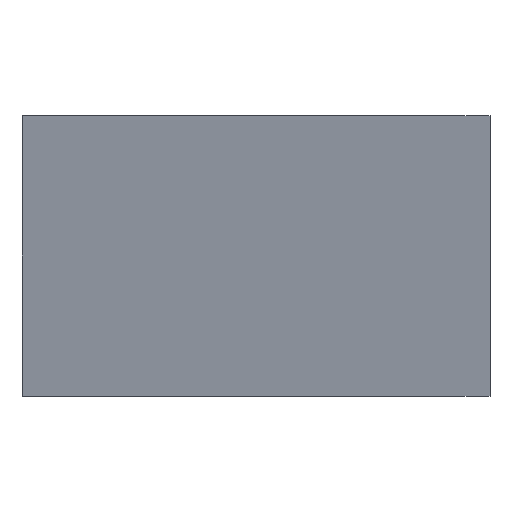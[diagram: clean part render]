
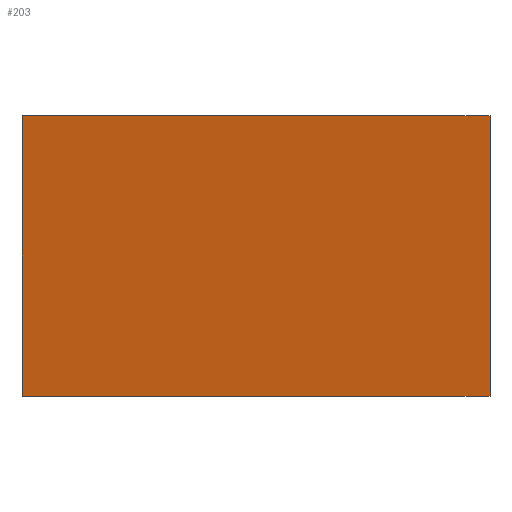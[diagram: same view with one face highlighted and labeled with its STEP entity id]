
A CAD part, front view. The second image highlights one B-rep face of the part: STEP entity #203.
In plain terms, the highlighted planar face has unit normal (-0.259, -0.966, 0).
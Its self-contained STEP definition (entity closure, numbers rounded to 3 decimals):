
#20=PLANE('',#235);
#30=FACE_OUTER_BOUND('',#42,.T.);
#42=EDGE_LOOP('',(#168,#169,#170,#171));
#55=LINE('',#324,#74);
#61=LINE('',#344,#80);
#62=LINE('',#346,#81);
#63=LINE('',#347,#82);
#74=VECTOR('',#262,10.);
#80=VECTOR('',#284,10.);
#81=VECTOR('',#285,10.);
#82=VECTOR('',#286,10.);
#102=VERTEX_POINT('',#321);
#103=VERTEX_POINT('',#323);
#109=VERTEX_POINT('',#343);
#110=VERTEX_POINT('',#345);
#122=EDGE_CURVE('',#102,#103,#55,.T.);
#132=EDGE_CURVE('',#109,#102,#61,.T.);
#133=EDGE_CURVE('',#110,#109,#62,.T.);
#134=EDGE_CURVE('',#110,#103,#63,.T.);
#168=ORIENTED_EDGE('',*,*,#122,.F.);
#169=ORIENTED_EDGE('',*,*,#132,.F.);
#170=ORIENTED_EDGE('',*,*,#133,.F.);
#171=ORIENTED_EDGE('',*,*,#134,.T.);
#203=ADVANCED_FACE('',(#30),#20,.F.);
#235=AXIS2_PLACEMENT_3D('',#342,#282,#283);
#262=DIRECTION('',(0.966,-0.259,0.));
#282=DIRECTION('center_axis',(0.259,0.966,0.));
#283=DIRECTION('ref_axis',(0.966,-0.259,0.));
#284=DIRECTION('',(0.,0.,1.));
#285=DIRECTION('',(-0.966,0.259,0.));
#286=DIRECTION('',(0.,0.,1.));
#321=CARTESIAN_POINT('',(0.,2.679,6.));
#323=CARTESIAN_POINT('',(10.,0.,6.));
#324=CARTESIAN_POINT('',(-4.895,3.991,6.));
#342=CARTESIAN_POINT('Origin',(0.,2.679,6.));
#343=CARTESIAN_POINT('',(0.,2.679,0.));
#344=CARTESIAN_POINT('',(0.,2.679,3.));
#345=CARTESIAN_POINT('',(10.,0.,0.));
#346=CARTESIAN_POINT('',(-4.895,3.991,0.));
#347=CARTESIAN_POINT('',(10.,0.,0.));
